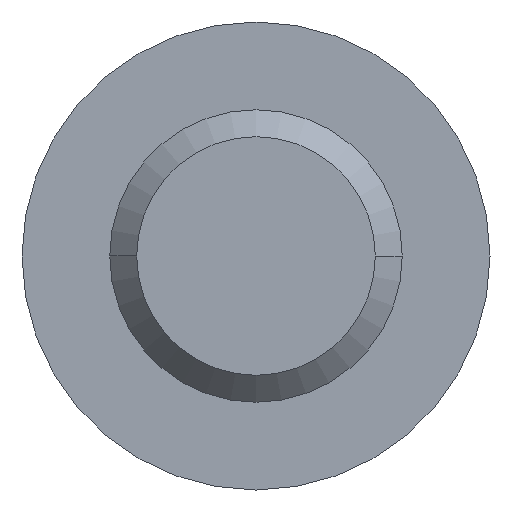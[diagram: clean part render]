
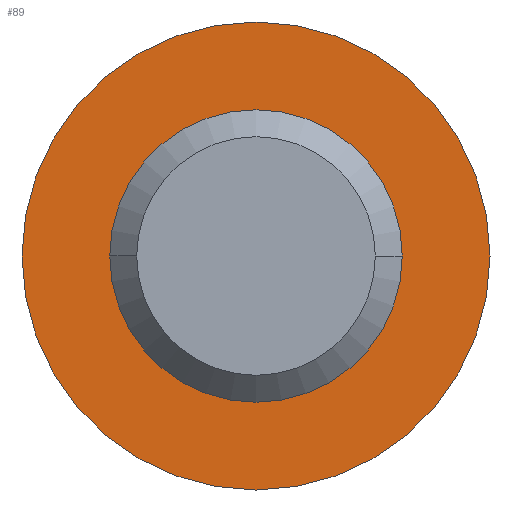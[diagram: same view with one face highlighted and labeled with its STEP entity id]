
A CAD part, front view. The second image highlights one B-rep face of the part: STEP entity #89.
In plain terms, the highlighted planar face has unit normal (0, -1, 0).
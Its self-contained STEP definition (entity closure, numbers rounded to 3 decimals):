
#89 = ADVANCED_FACE( '', ( #122, #123 ), #124, .T. );
#122 = FACE_OUTER_BOUND( '', #160, .T. );
#123 = FACE_BOUND( '', #161, .T. );
#124 = PLANE( '', #162 );
#160 = EDGE_LOOP( '', ( #271, #272 ) );
#161 = EDGE_LOOP( '', ( #273, #274 ) );
#162 = AXIS2_PLACEMENT_3D( '', #275, #276, #277 );
#271 = ORIENTED_EDGE( '', *, *, #313, .F. );
#272 = ORIENTED_EDGE( '', *, *, #344, .F. );
#273 = ORIENTED_EDGE( '', *, *, #319, .T. );
#274 = ORIENTED_EDGE( '', *, *, #343, .T. );
#275 = CARTESIAN_POINT( '', ( 6.5, 0., 0. ) );
#276 = DIRECTION( '', ( 0., -1., 0. ) );
#277 = DIRECTION( '', ( -1., 0., 0. ) );
#313 = EDGE_CURVE( '', #359, #361, #362, .T. );
#319 = EDGE_CURVE( '', #367, #371, #373, .T. );
#343 = EDGE_CURVE( '', #371, #367, #411, .T. );
#344 = EDGE_CURVE( '', #361, #359, #412, .T. );
#359 = VERTEX_POINT( '', #427 );
#361 = VERTEX_POINT( '', #430 );
#362 = CIRCLE( '', #431, 8. );
#367 = VERTEX_POINT( '', #437 );
#371 = VERTEX_POINT( '', #442 );
#373 = CIRCLE( '', #445, 5. );
#411 = CIRCLE( '', #503, 5. );
#412 = CIRCLE( '', #504, 8. );
#427 = CARTESIAN_POINT( '', ( 8., 0., 0. ) );
#430 = CARTESIAN_POINT( '', ( -8., 0., 0. ) );
#431 = AXIS2_PLACEMENT_3D( '', #526, #527, #528 );
#437 = CARTESIAN_POINT( '', ( 5., 0., 0. ) );
#442 = CARTESIAN_POINT( '', ( -5., 0., 0. ) );
#445 = AXIS2_PLACEMENT_3D( '', #538, #539, #540 );
#503 = AXIS2_PLACEMENT_3D( '', #570, #571, #572 );
#504 = AXIS2_PLACEMENT_3D( '', #573, #574, #575 );
#526 = CARTESIAN_POINT( '', ( 0., 0., 0. ) );
#527 = DIRECTION( '', ( 0., 1., 0. ) );
#528 = DIRECTION( '', ( 1., 0., 0. ) );
#538 = CARTESIAN_POINT( '', ( 0., 0., 0. ) );
#539 = DIRECTION( '', ( 0., 1., 0. ) );
#540 = DIRECTION( '', ( 1., 0., 0. ) );
#570 = CARTESIAN_POINT( '', ( 0., 0., 0. ) );
#571 = DIRECTION( '', ( 0., 1., 0. ) );
#572 = DIRECTION( '', ( 1., 0., 0. ) );
#573 = CARTESIAN_POINT( '', ( 0., 0., 0. ) );
#574 = DIRECTION( '', ( 0., 1., 0. ) );
#575 = DIRECTION( '', ( 1., 0., 0. ) );
